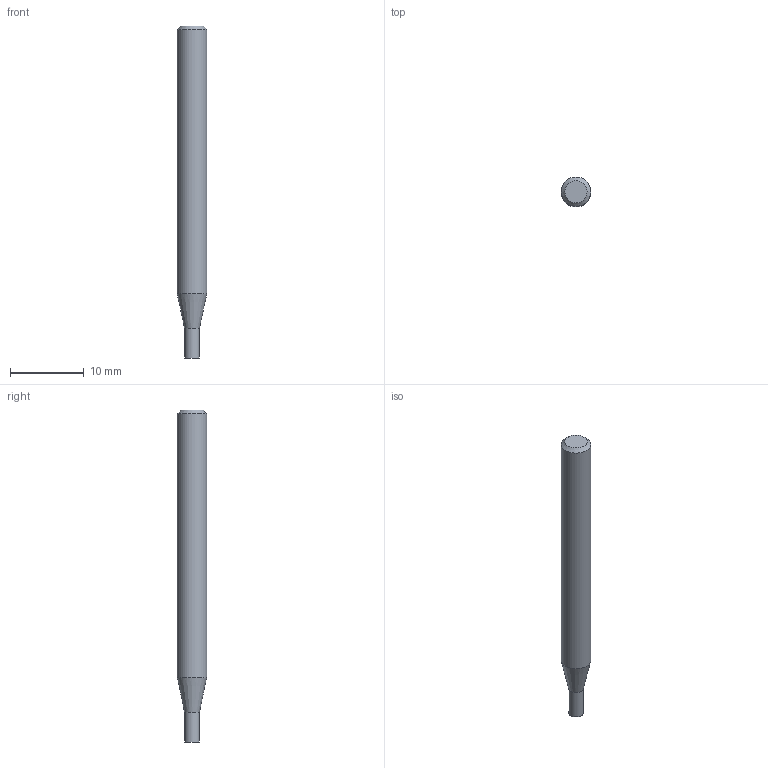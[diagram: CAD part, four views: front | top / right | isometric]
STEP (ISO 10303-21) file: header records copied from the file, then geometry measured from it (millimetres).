
FILE_DESCRIPTION((''),'2;1');
FILE_NAME('C:\Users\nsx150\AppData\Local\Temp\Mastercam 2021\E36A1X9CCL\TEMP.step','2023-04-21T15:12:25',(''),(''),'STEP Write','Mastercam 2021 ... CNC Software, Inc.','');
FILE_SCHEMA(('AUTOMOTIVE_DESIGN'));
Length unit declared in the file: millimetre
Products named in the file (1): None
Bounding box: 4 x 4 x 45 mm (x, y, z)
Volume: 501.7 mm3; surface area: 544.5 mm2
Topology: 2 solids, 2 shells, 8 faces, 10 edges, 6 vertices
Faces by surface type: plane 4, cylinder 2, cone 2
Full cylindrical faces by diameter (mm): 2 x1, 4 x1
Entity records: 190 total; most frequent: DIRECTION 32, CARTESIAN_POINT 22, AXIS2_PLACEMENT_3D 16, ORIENTED_EDGE 12, EDGE_LOOP 12, STYLED_ITEM 11, ADVANCED_FACE 8, VERTEX_POINT 6
